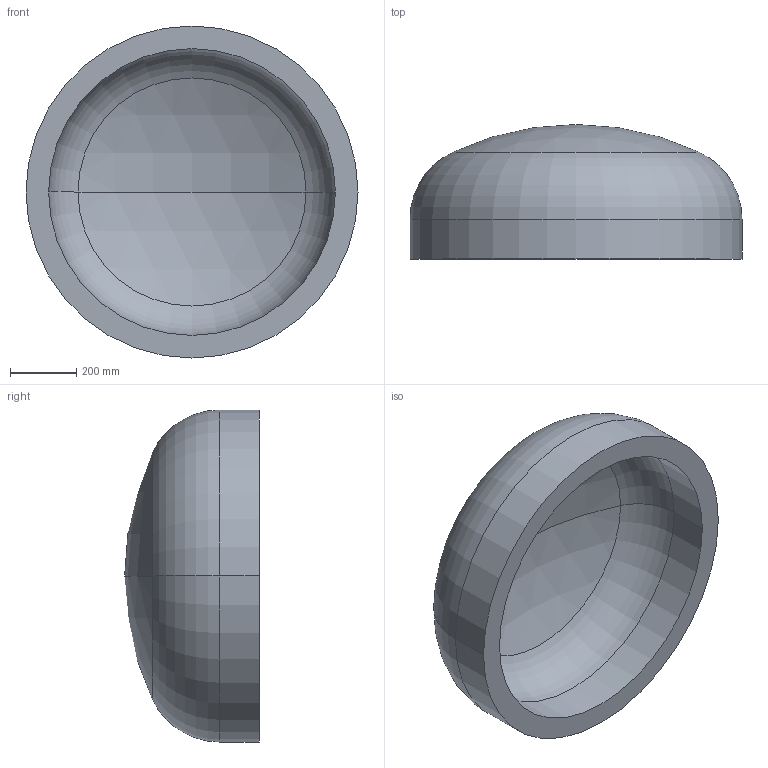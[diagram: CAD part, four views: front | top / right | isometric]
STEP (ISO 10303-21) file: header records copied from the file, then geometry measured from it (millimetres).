
FILE_DESCRIPTION (( 'STEP AP203' ), '1' );
FILE_NAME ('DIN 28013 Korbbogenform_-_Boden DIN 28013 - 1000 x 120 - I - s=68.step', '2016-07-01T08:52:53', ( '' ), ( '' ), 'SwSTEP 2.0', 'SolidWorks 2013', '' );
FILE_SCHEMA (( 'CONFIG_CONTROL_DESIGN' ));
Length unit declared in the file: millimetre
Products named in the file (1): DIN 28013 Korbbogenform_-_Boden DIN 28013 - 1000 x 120 - I - s=68
Bounding box: 1000 x 405.51 x 1000 mm (x, y, z)
Volume: 91847187.8 mm3; surface area: 2910173.4 mm2
Topology: 1 solids, 1 shells, 13 faces, 24 edges, 14 vertices
Faces by surface type: torus 4, cylinder 4, sphere 4, plane 1
Entity records: 407 total; most frequent: DIRECTION 72, CARTESIAN_POINT 52, ORIENTED_EDGE 48, AXIS2_PLACEMENT_3D 34, EDGE_CURVE 24, CIRCLE 20, VERTEX_POINT 14, EDGE_LOOP 14
